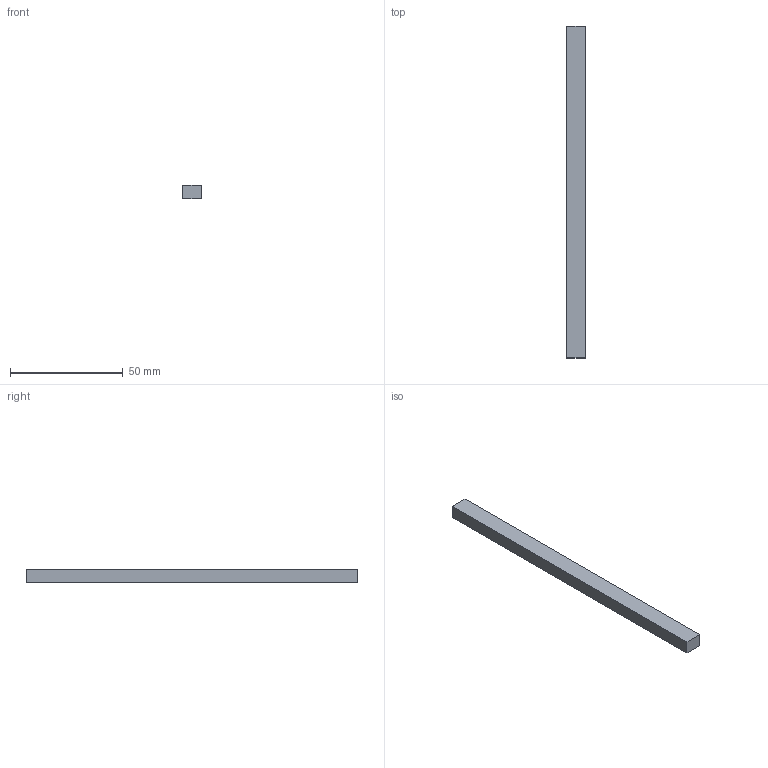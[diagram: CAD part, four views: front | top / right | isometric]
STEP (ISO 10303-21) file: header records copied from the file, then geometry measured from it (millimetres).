
FILE_DESCRIPTION(('Open CASCADE Model'),'2;1');
FILE_NAME('Open CASCADE Shape Model','2026-10-04T02:31:39',('Author'),( 'Open CASCADE'),'Open CASCADE STEP processor 8.0','Open CASCADE 8.0' ,'Unknown');
FILE_SCHEMA(('AUTOMOTIVE_DESIGN { 1 0 10303 214 1 1 1 1 }'));
Length unit declared in the file: millimetre
Products named in the file (1): Open CASCADE STEP translator 8.0 175
Bounding box: 8 x 147.2 x 6 mm (x, y, z)
Volume: 7065.6 mm3; surface area: 4217.6 mm2
Topology: 1 solids, 1 shells, 6 faces, 12 edges, 8 vertices
Faces by surface type: plane 6
Entity records: 322 total; most frequent: CARTESIAN_POINT 51, DIRECTION 50, LINE 36, VECTOR 36, ORIENTED_EDGE 24, PCURVE 24, DEFINITIONAL_REPRESENTATION 24, EDGE_CURVE 12
